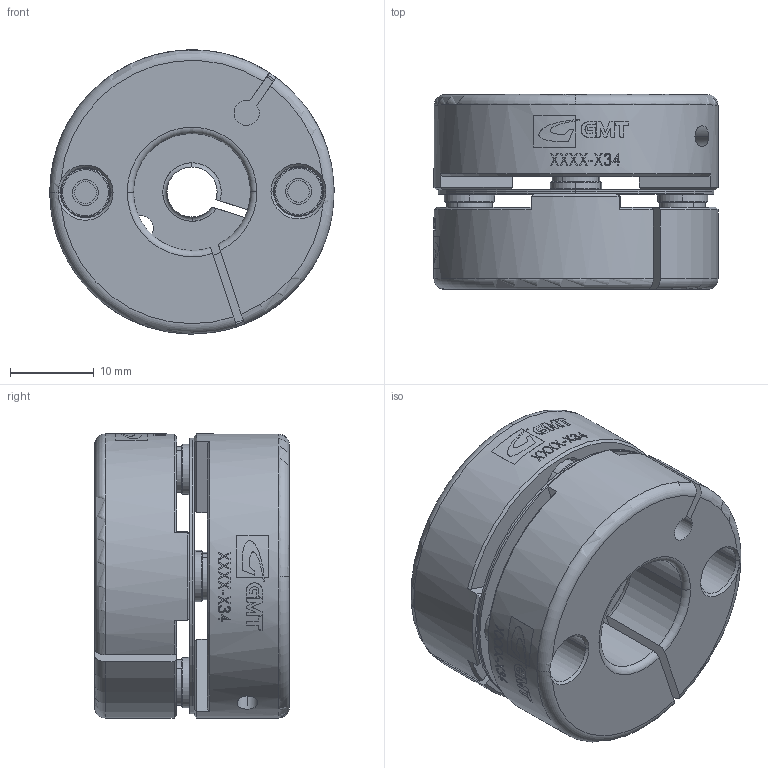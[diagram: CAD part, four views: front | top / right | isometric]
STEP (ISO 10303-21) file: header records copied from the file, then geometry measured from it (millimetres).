
FILE_DESCRIPTION (( 'STEP AP203' ), '1' );
FILE_NAME ('FACC-S34.STEP', '2008-04-04T05:30:03', ( '陳志豪' ), ( '高明鐵企業股份有限公司' ), 'SwSTEP 2.0', 'SolidWorks 2007', '' );
FILE_SCHEMA (( 'CONFIG_CONTROL_DESIGN' ));
Length unit declared in the file: millimetre
Products named in the file (1): FACC-S34
Bounding box: 34 x 23.3 x 34 mm (x, y, z)
Surface area: 9022.4 mm2 (no closed solid volume)
Topology: 0 solids, 13 shells, 312 faces, 1385 edges, 1002 vertices
Faces by surface type: bspline 109, cylinder 82, plane 62, cone 44, torus 15
Entity records: 17731 total; most frequent: CARTESIAN_POINT 8068, ORIENTED_EDGE 2038, DIRECTION 1510, EDGE_CURVE 1385, VERTEX_POINT 1002, B_SPLINE_CURVE_WITH_KNOTS 691, AXIS2_PLACEMENT_3D 612, CIRCLE 408
